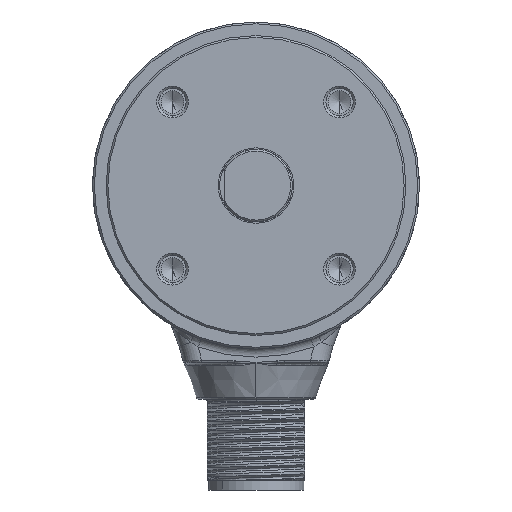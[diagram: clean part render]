
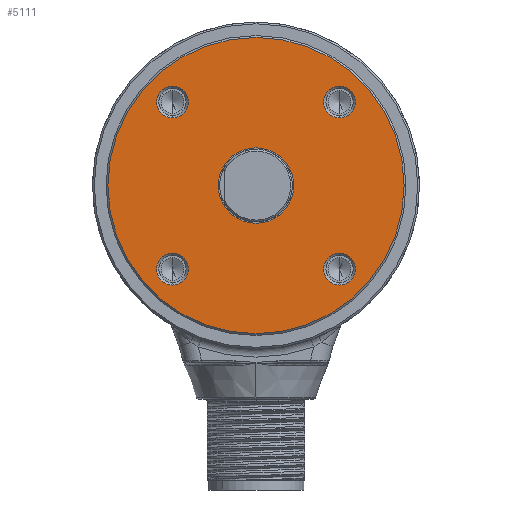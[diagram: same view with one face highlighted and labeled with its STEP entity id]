
A CAD part, left-side view. The second image highlights one B-rep face of the part: STEP entity #5111.
In plain terms, the highlighted planar face has unit normal (-1, 0, 0).
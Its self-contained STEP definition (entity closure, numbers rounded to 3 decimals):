
#4113 = VERTEX_POINT ( 'NONE', #44703 ) ;
#4118 = EDGE_CURVE ( 'NONE', #4113, #4120, #44701, .T. ) ;
#4120 = VERTEX_POINT ( 'NONE', #44702 ) ;
#4183 = VERTEX_POINT ( 'NONE', #44852 ) ;
#4187 = EDGE_CURVE ( 'NONE', #4183, #4188, #44851, .T. ) ;
#4188 = VERTEX_POINT ( 'NONE', #44845 ) ;
#4245 = VERTEX_POINT ( 'NONE', #44970 ) ;
#4251 = EDGE_CURVE ( 'NONE', #4245, #4254, #44968, .T. ) ;
#4254 = VERTEX_POINT ( 'NONE', #45017 ) ;
#4308 = VERTEX_POINT ( 'NONE', #45115 ) ;
#4402 = EDGE_CURVE ( 'NONE', #4308, #4404, #45289, .T. ) ;
#4404 = VERTEX_POINT ( 'NONE', #45284 ) ;
#4415 = EDGE_CURVE ( 'NONE', #4417, #4419, #45320, .T. ) ;
#4417 = VERTEX_POINT ( 'NONE', #45311 ) ;
#4419 = VERTEX_POINT ( 'NONE', #45371 ) ;
#4909 = VERTEX_POINT ( 'NONE', #46264 ) ;
#4912 = EDGE_CURVE ( 'NONE', #4909, #4913, #46263, .T. ) ;
#4913 = VERTEX_POINT ( 'NONE', #46257 ) ;
#5083 = EDGE_CURVE ( 'NONE', #4254, #4245, #46618, .T. ) ;
#5084 = ORIENTED_EDGE ( 'NONE', *, *, #4251, .F. ) ;
#5086 = EDGE_LOOP ( 'NONE', ( #5087, #5090 ) ) ;
#5087 = ORIENTED_EDGE ( 'NONE', *, *, #5088, .F. ) ;
#5088 = EDGE_CURVE ( 'NONE', #4404, #4308, #46613, .T. ) ;
#5090 = ORIENTED_EDGE ( 'NONE', *, *, #4402, .F. ) ;
#5091 = EDGE_LOOP ( 'NONE', ( #5092, #5095 ) ) ;
#5092 = ORIENTED_EDGE ( 'NONE', *, *, #5094, .T. ) ;
#5094 = EDGE_CURVE ( 'NONE', #4419, #4417, #46608, .T. ) ;
#5095 = ORIENTED_EDGE ( 'NONE', *, *, #4415, .T. ) ;
#5097 = EDGE_LOOP ( 'NONE', ( #5100, #5102 ) ) ;
#5100 = ORIENTED_EDGE ( 'NONE', *, *, #5107, .F. ) ;
#5102 = ORIENTED_EDGE ( 'NONE', *, *, #4912, .F. ) ;
#5107 = EDGE_CURVE ( 'NONE', #4913, #4909, #46602, .T. ) ;
#5111 = ADVANCED_FACE ( 'NONE', ( #46597, #46596, #46595, #46594, #46593, #46592 ), #46639, .F. ) ;
#5114 = EDGE_LOOP ( 'NONE', ( #5117, #5121 ) ) ;
#5117 = ORIENTED_EDGE ( 'NONE', *, *, #5119, .F. ) ;
#5119 = EDGE_CURVE ( 'NONE', #4120, #4113, #46633, .T. ) ;
#5121 = ORIENTED_EDGE ( 'NONE', *, *, #4118, .F. ) ;
#5122 = EDGE_LOOP ( 'NONE', ( #5123, #5127 ) ) ;
#5123 = ORIENTED_EDGE ( 'NONE', *, *, #5125, .F. ) ;
#5125 = EDGE_CURVE ( 'NONE', #4188, #4183, #46629, .T. ) ;
#5127 = ORIENTED_EDGE ( 'NONE', *, *, #4187, .F. ) ;
#5128 = EDGE_LOOP ( 'NONE', ( #5129, #5084 ) ) ;
#5129 = ORIENTED_EDGE ( 'NONE', *, *, #5083, .F. ) ;
#44697 = DIRECTION ( 'NONE',  ( 0., 0., 1. ) ) ;
#44698 = DIRECTION ( 'NONE',  ( -1., 0., 0. ) ) ;
#44699 = CARTESIAN_POINT ( 'NONE',  ( 0., 9.192, 9.192 ) ) ;
#44700 = AXIS2_PLACEMENT_3D ( 'NONE', #44699, #44698, #44697 ) ;
#44701 = CIRCLE ( 'NONE', #44700, 1.75 ) ;
#44702 = CARTESIAN_POINT ( 'NONE',  ( 0., 9.192, 10.942 ) ) ;
#44703 = CARTESIAN_POINT ( 'NONE',  ( 0., 9.192, 7.442 ) ) ;
#44845 = CARTESIAN_POINT ( 'NONE',  ( 0., 9.192, -7.442 ) ) ;
#44846 = DIRECTION ( 'NONE',  ( 0., 0., 1. ) ) ;
#44848 = DIRECTION ( 'NONE',  ( -1., 0., 0. ) ) ;
#44849 = CARTESIAN_POINT ( 'NONE',  ( 0., 9.192, -9.192 ) ) ;
#44850 = AXIS2_PLACEMENT_3D ( 'NONE', #44849, #44848, #44846 ) ;
#44851 = CIRCLE ( 'NONE', #44850, 1.75 ) ;
#44852 = CARTESIAN_POINT ( 'NONE',  ( 0., 9.192, -10.942 ) ) ;
#44965 = DIRECTION ( 'NONE',  ( -1., 0., 0. ) ) ;
#44966 = CARTESIAN_POINT ( 'NONE',  ( 0., -9.192, -9.192 ) ) ;
#44967 = AXIS2_PLACEMENT_3D ( 'NONE', #44966, #44965, #45018 ) ;
#44968 = CIRCLE ( 'NONE', #44967, 1.75 ) ;
#44970 = CARTESIAN_POINT ( 'NONE',  ( 0., -9.192, -10.942 ) ) ;
#45017 = CARTESIAN_POINT ( 'NONE',  ( 0., -9.192, -7.442 ) ) ;
#45018 = DIRECTION ( 'NONE',  ( 0., 0., 1. ) ) ;
#45115 = CARTESIAN_POINT ( 'NONE',  ( 0., -9.192, 7.442 ) ) ;
#45284 = CARTESIAN_POINT ( 'NONE',  ( 0., -9.192, 10.942 ) ) ;
#45285 = DIRECTION ( 'NONE',  ( 0., 0., 1. ) ) ;
#45286 = DIRECTION ( 'NONE',  ( -1., 0., 0. ) ) ;
#45287 = CARTESIAN_POINT ( 'NONE',  ( 0., -9.192, 9.192 ) ) ;
#45288 = AXIS2_PLACEMENT_3D ( 'NONE', #45287, #45286, #45285 ) ;
#45289 = CIRCLE ( 'NONE', #45288, 1.75 ) ;
#45311 = CARTESIAN_POINT ( 'NONE',  ( 0., 0., 16.3 ) ) ;
#45312 = DIRECTION ( 'NONE',  ( 0., 0., -1. ) ) ;
#45313 = DIRECTION ( 'NONE',  ( -1., 0., 0. ) ) ;
#45314 = CARTESIAN_POINT ( 'NONE',  ( 0., 0., 0. ) ) ;
#45315 = AXIS2_PLACEMENT_3D ( 'NONE', #45314, #45313, #45312 ) ;
#45320 = CIRCLE ( 'NONE', #45315, 16.3 ) ;
#45371 = CARTESIAN_POINT ( 'NONE',  ( 0., 0., -16.3 ) ) ;
#46257 = CARTESIAN_POINT ( 'NONE',  ( 0., 0., 4.15 ) ) ;
#46258 = DIRECTION ( 'NONE',  ( 0., 0., 1. ) ) ;
#46259 = DIRECTION ( 'NONE',  ( -1., 0., 0. ) ) ;
#46261 = CARTESIAN_POINT ( 'NONE',  ( 0., 0., 0. ) ) ;
#46262 = AXIS2_PLACEMENT_3D ( 'NONE', #46261, #46259, #46258 ) ;
#46263 = CIRCLE ( 'NONE', #46262, 4.15 ) ;
#46264 = CARTESIAN_POINT ( 'NONE',  ( 0., 0., -4.15 ) ) ;
#46592 = FACE_BOUND ( 'NONE', #5097, .T. ) ;
#46593 = FACE_OUTER_BOUND ( 'NONE', #5091, .T. ) ;
#46594 = FACE_BOUND ( 'NONE', #5086, .T. ) ;
#46595 = FACE_BOUND ( 'NONE', #5128, .T. ) ;
#46596 = FACE_BOUND ( 'NONE', #5122, .T. ) ;
#46597 = FACE_BOUND ( 'NONE', #5114, .T. ) ;
#46598 = DIRECTION ( 'NONE',  ( 0., 0., 1. ) ) ;
#46599 = DIRECTION ( 'NONE',  ( -1., 0., 0. ) ) ;
#46600 = CARTESIAN_POINT ( 'NONE',  ( 0., 0., 0. ) ) ;
#46601 = AXIS2_PLACEMENT_3D ( 'NONE', #46600, #46599, #46598 ) ;
#46602 = CIRCLE ( 'NONE', #46601, 4.15 ) ;
#46604 = DIRECTION ( 'NONE',  ( 0., 0., -1. ) ) ;
#46605 = DIRECTION ( 'NONE',  ( -1., 0., 0. ) ) ;
#46606 = CARTESIAN_POINT ( 'NONE',  ( 0., 0., 0. ) ) ;
#46607 = AXIS2_PLACEMENT_3D ( 'NONE', #46606, #46605, #46604 ) ;
#46608 = CIRCLE ( 'NONE', #46607, 16.3 ) ;
#46609 = DIRECTION ( 'NONE',  ( 0., 0., 1. ) ) ;
#46610 = DIRECTION ( 'NONE',  ( -1., 0., 0. ) ) ;
#46611 = CARTESIAN_POINT ( 'NONE',  ( 0., -9.192, 9.192 ) ) ;
#46612 = AXIS2_PLACEMENT_3D ( 'NONE', #46611, #46610, #46609 ) ;
#46613 = CIRCLE ( 'NONE', #46612, 1.75 ) ;
#46614 = DIRECTION ( 'NONE',  ( 0., 0., 1. ) ) ;
#46615 = DIRECTION ( 'NONE',  ( -1., 0., 0. ) ) ;
#46616 = CARTESIAN_POINT ( 'NONE',  ( 0., -9.192, -9.192 ) ) ;
#46617 = AXIS2_PLACEMENT_3D ( 'NONE', #46616, #46615, #46614 ) ;
#46618 = CIRCLE ( 'NONE', #46617, 1.75 ) ;
#46625 = DIRECTION ( 'NONE',  ( 0., 0., 1. ) ) ;
#46626 = DIRECTION ( 'NONE',  ( -1., 0., 0. ) ) ;
#46627 = CARTESIAN_POINT ( 'NONE',  ( 0., 9.192, -9.192 ) ) ;
#46628 = AXIS2_PLACEMENT_3D ( 'NONE', #46627, #46626, #46625 ) ;
#46629 = CIRCLE ( 'NONE', #46628, 1.75 ) ;
#46630 = DIRECTION ( 'NONE',  ( 0., 0., 1. ) ) ;
#46631 = DIRECTION ( 'NONE',  ( -1., 0., 0. ) ) ;
#46632 = AXIS2_PLACEMENT_3D ( 'NONE', #46638, #46631, #46630 ) ;
#46633 = CIRCLE ( 'NONE', #46632, 1.75 ) ;
#46634 = DIRECTION ( 'NONE',  ( 0., 0., -1. ) ) ;
#46635 = DIRECTION ( 'NONE',  ( 1., 0., 0. ) ) ;
#46636 = CARTESIAN_POINT ( 'NONE',  ( 0., 4.15, 0. ) ) ;
#46637 = AXIS2_PLACEMENT_3D ( 'NONE', #46636, #46635, #46634 ) ;
#46638 = CARTESIAN_POINT ( 'NONE',  ( 0., 9.192, 9.192 ) ) ;
#46639 = PLANE ( 'NONE',  #46637 ) ;
